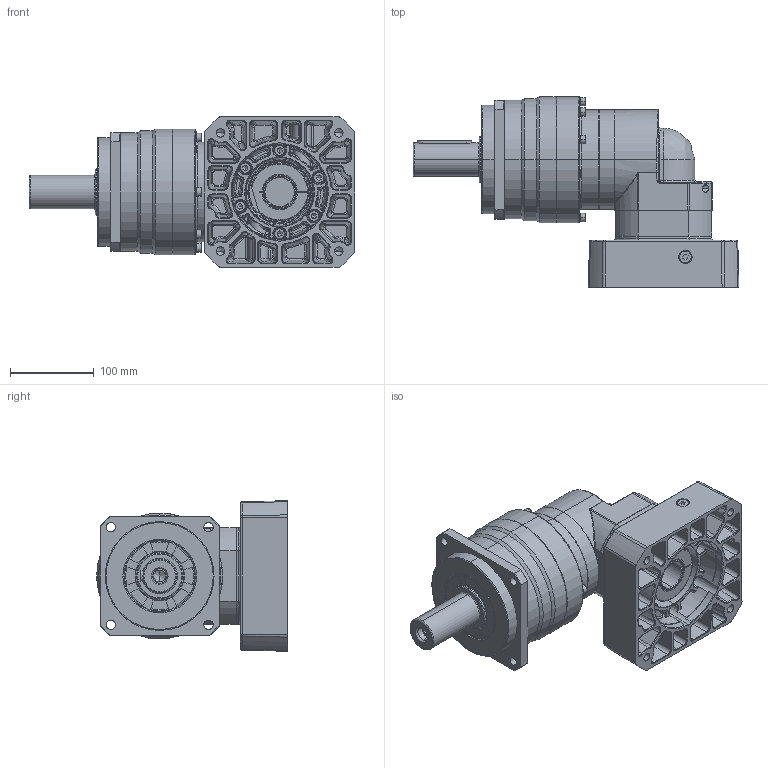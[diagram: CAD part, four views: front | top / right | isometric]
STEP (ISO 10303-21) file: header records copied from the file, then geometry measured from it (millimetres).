
FILE_DESCRIPTION (( 'STEP AP214' ), '1' );
FILE_NAME ('EVB142-L2-S2-P1 35-114.3-200-M12-81.STEP', '2025-01-09T06:15:44', ( '微软用户' ), ( '微软中国' ), 'SwSTEP 2.0', 'SolidWorks 2021', '' );
FILE_SCHEMA (( 'AUTOMOTIVE_DESIGN' ));
Length unit declared in the file: millimetre
Products named in the file (3): EVB142-L2-S2-P1 35-114.3-200-M12-81; EVB142M1-L2-S2-35-114.3-200-M12-81; 11-EVT110F眻褒眊极_stp_stp.stp
Assembly tree (2 placements, depth 2):
  EVB142-L2-S2-P1 35-114.3-200-M12-81
    EVB142M1-L2-S2-35-114.3-200-M12-81
    11-EVT110F眻褒眊极_stp_stp.stp
Bounding box: 389.5 x 227.75 x 180 mm (x, y, z)
Volume: 484023.1 mm3; surface area: 621548.5 mm2
Topology: 1 solids, 43 shells, 2256 faces, 5457 edges, 3315 vertices
Faces by surface type: bspline 716, cylinder 560, plane 558, cone 395, torus 27
Entity records: 102595 total; most frequent: CARTESIAN_POINT 55193, ORIENTED_EDGE 10619, DIRECTION 8612, EDGE_CURVE 5369, AXIS2_PLACEMENT_3D 3512, VERTEX_POINT 3315, EDGE_LOOP 2486, FACE_OUTER_BOUND 2256
